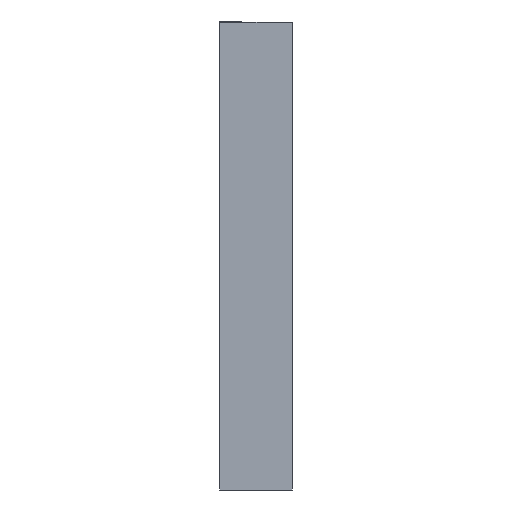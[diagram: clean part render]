
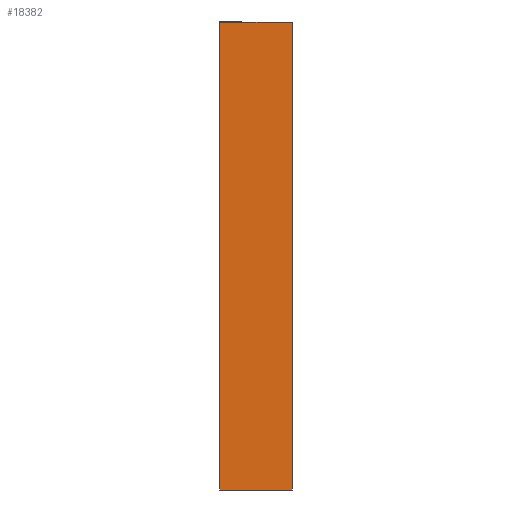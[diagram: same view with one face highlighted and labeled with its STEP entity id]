
A CAD part, left-side view. The second image highlights one B-rep face of the part: STEP entity #18382.
In plain terms, the highlighted planar face has unit normal (-1, 0, 0).
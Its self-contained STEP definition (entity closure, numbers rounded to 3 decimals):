
#67 = CARTESIAN_POINT ( 'NONE',  ( -275.6, 709.387, -169.294 ) ) ;
#77 = DIRECTION ( 'NONE',  ( 0., -1., 0. ) ) ;
#995 = ORIENTED_EDGE ( 'NONE', *, *, #6750, .T. ) ;
#1452 = ORIENTED_EDGE ( 'NONE', *, *, #16334, .T. ) ;
#1475 = VECTOR ( 'NONE', #77, 1000. ) ;
#2420 = VERTEX_POINT ( 'NONE', #17231 ) ;
#3127 = DIRECTION ( 'NONE',  ( 0., 0., -1. ) ) ;
#3585 = CARTESIAN_POINT ( 'NONE',  ( -275.6, 709.387, 166.697 ) ) ;
#3687 = LINE ( 'NONE', #3585, #1475 ) ;
#5046 = LINE ( 'NONE', #19046, #19591 ) ;
#5258 = EDGE_CURVE ( 'NONE', #2420, #21848, #3687, .T. ) ;
#5506 = VECTOR ( 'NONE', #6346, 1000. ) ;
#6346 = DIRECTION ( 'NONE',  ( 0., -1., 0. ) ) ;
#6750 = EDGE_CURVE ( 'NONE', #2420, #13254, #6919, .T. ) ;
#6919 = LINE ( 'NONE', #20512, #7611 ) ;
#7189 = EDGE_LOOP ( 'NONE', ( #19079, #995, #1452, #8335 ) ) ;
#7611 = VECTOR ( 'NONE', #18809, 1000. ) ;
#8335 = ORIENTED_EDGE ( 'NONE', *, *, #18273, .F. ) ;
#10783 = DIRECTION ( 'NONE',  ( -1., 0., 0. ) ) ;
#11879 = VERTEX_POINT ( 'NONE', #14707 ) ;
#12015 = CARTESIAN_POINT ( 'NONE',  ( -275.6, -0.288, 166.697 ) ) ;
#13254 = VERTEX_POINT ( 'NONE', #16626 ) ;
#13956 = PLANE ( 'NONE',  #22127 ) ;
#14304 = DIRECTION ( 'NONE',  ( 0., 0., 1. ) ) ;
#14707 = CARTESIAN_POINT ( 'NONE',  ( -275.6, -0.288, -169.294 ) ) ;
#14940 = LINE ( 'NONE', #67, #5506 ) ;
#16334 = EDGE_CURVE ( 'NONE', #13254, #11879, #14940, .T. ) ;
#16626 = CARTESIAN_POINT ( 'NONE',  ( -275.6, 51.841, -169.294 ) ) ;
#17231 = CARTESIAN_POINT ( 'NONE',  ( -275.6, 51.841, 166.697 ) ) ;
#18273 = EDGE_CURVE ( 'NONE', #21848, #11879, #5046, .T. ) ;
#18382 = ADVANCED_FACE ( 'NONE', ( #19283 ), #13956, .T. ) ;
#18809 = DIRECTION ( 'NONE',  ( 0., 0., -1. ) ) ;
#19046 = CARTESIAN_POINT ( 'NONE',  ( -275.6, -0.288, 166.697 ) ) ;
#19079 = ORIENTED_EDGE ( 'NONE', *, *, #5258, .F. ) ;
#19283 = FACE_OUTER_BOUND ( 'NONE', #7189, .T. ) ;
#19591 = VECTOR ( 'NONE', #3127, 1000. ) ;
#19626 = CARTESIAN_POINT ( 'NONE',  ( -275.6, 709.387, 166.697 ) ) ;
#20512 = CARTESIAN_POINT ( 'NONE',  ( -275.6, 51.841, 166.697 ) ) ;
#21848 = VERTEX_POINT ( 'NONE', #12015 ) ;
#22127 = AXIS2_PLACEMENT_3D ( 'NONE', #19626, #10783, #14304 ) ;
